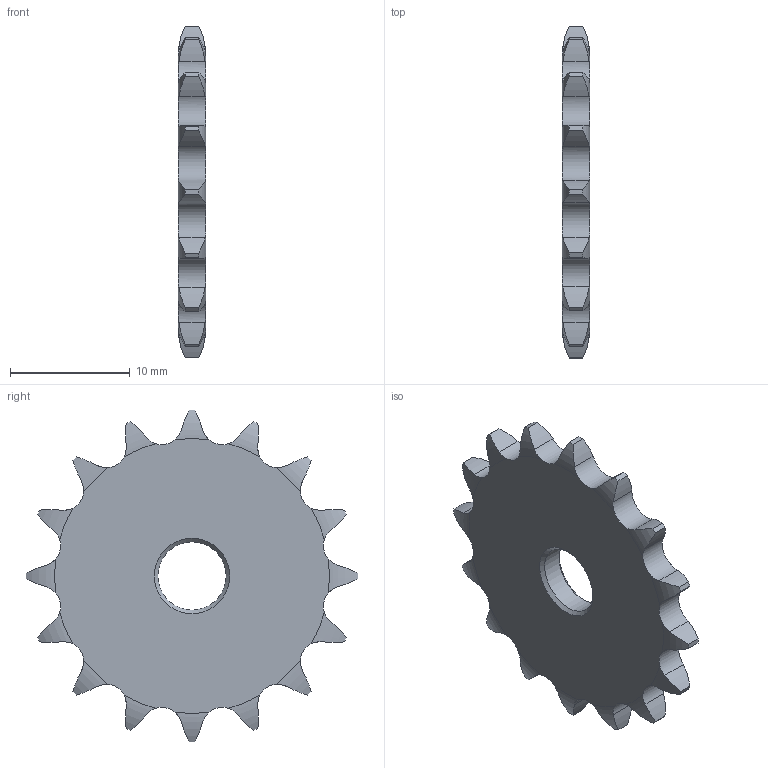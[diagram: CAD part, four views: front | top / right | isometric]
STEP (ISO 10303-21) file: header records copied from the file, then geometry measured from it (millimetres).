
FILE_DESCRIPTION(/* description */ (''),/* implementation_level */ '2;1');
FILE_NAME(/* name */ 'C:\Users\stagistaCAD\Desktop\Nuova cartella\20105016.stp',/* time_stamp */ '2018-06-26T15:04:48+02:00',/* author */ ('stagistacad'),/* organization */ (''),/* preprocessor_version */ 'ST-DEVELOPER v15.6',/* originating_system */ 'Autodesk Inventor 2015',/* authorisation */ '');
FILE_SCHEMA (('AUTOMOTIVE_DESIGN { 1 0 10303 214 3 1 1 }'));
Length unit declared in the file: millimetre
Products named in the file (1): 20105016
Bounding box: 2.3 x 27.73 x 27.73 mm (x, y, z)
Volume: 997.6 mm3; surface area: 1163.2 mm2
Topology: 1 solids, 1 shells, 101 faces, 295 edges, 196 vertices
Faces by surface type: cylinder 65, torus 32, plane 2, cone 2
Full cylindrical faces by diameter (mm): 5.7 x1
Entity records: 3770 total; most frequent: CARTESIAN_POINT 1230, ORIENTED_EDGE 584, DIRECTION 468, EDGE_CURVE 292, AXIS2_PLACEMENT_3D 202, VERTEX_POINT 196, B_SPLINE_CURVE_WITH_KNOTS 128, EDGE_LOOP 106
